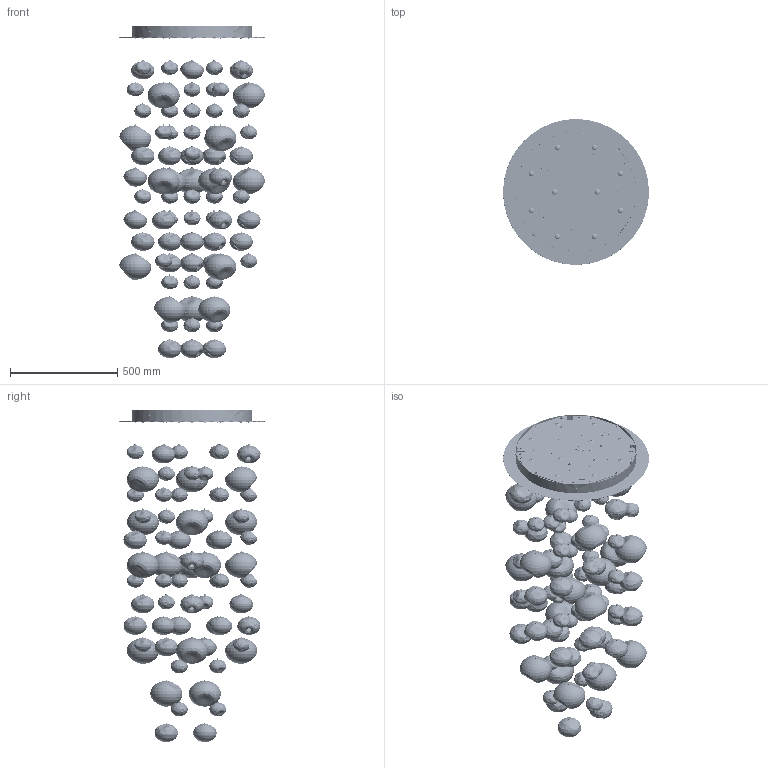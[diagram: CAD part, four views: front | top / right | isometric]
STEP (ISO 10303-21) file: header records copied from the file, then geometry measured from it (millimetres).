
FILE_DESCRIPTION(/* description */ (''),/* implementation_level */ '2;1');
FILE_NAME(/* name */ 'ETHER ROUND Ø68 150',/* time_stamp */ '2025-09-04T16:06:47+02:00',/* author */ (''),/* organization */ (''),/* preprocessor_version */ 'ST-DEVELOPER v16.5',/* originating_system */ 'Rhino 7.38',/* authorisation */ '');
FILE_SCHEMA (('CONFIG_CONTROL_DESIGN'));
Products named in the file (53): Document; 146C021-B; 146C016-F; 146C014; 146C013; SEEGER N.4 ZINCATO minetti; 146C011; 146C021-A; 146C016-E; 146C015; 146C021-C; 146C016-G; 146C021-F; 146C016-H; 146C021-E; 146C021-D; 146C002; 146C010-G-927; Z0022; C026-927; C005; C008; B005; Vite TSP CR M3x8 zincata; VITE TC AUTOFIL M2,9X9,5 ZN UNI6954AB DIN7981C; K001; R001-36; 146C005; RONDELLA Ø7 H2 F.Ø3.2 STEAB 5021-2-118; VITE AUTOFIL. Ø2.9X6.5 TCC UNI 6954 AB; VITE TCEI M3X25 UNI5931 ZB; E007-0,5A; W037; Z017-P; W042; W044; Z0009; 146C006; X0072; 146C010-F-927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
Assembly tree (274 placements, depth 3):
  Document
    146C021-B  x3
      146C016-F
      146C014
      146C013
      SEEGER N.4 ZINCATO minetti
      146C011
    146C021-A  x3
      146C016-E
      146C015
      146C013
      146C014
      SEEGER N.4 ZINCATO minetti
      146C011
    146C021-C  x3
      146C016-G
      146C014
      146C015
      146C013
      SEEGER N.4 ZINCATO minetti
      146C011
    146C021-F  x3
      146C016-H
      146C014
      146C013
      SEEGER N.4 ZINCATO minetti
      146C011
    146C021-E  x3
      146C016-G
      146C015
      146C014
      146C013
      SEEGER N.4 ZINCATO minetti
      146C011
    146C021-D  x3
      146C016-H
      146C014
      146C013
      146C011
      SEEGER N.4 ZINCATO minetti
    146C002
    146C010-G-927  x4
      Z0022
      C026-927
      C005
      C008
      B005
      Vite TSP CR M3x8 zincata
      VITE TC AUTOFIL M2,9X9,5 ZN UNI6954AB DIN7981C
      K001
      R001-36
      146C005
      RONDELLA Ø7 H2 F.Ø3.2 STEAB 5021-2-118
      VITE AUTOFIL. Ø2.9X6.5 TCC UNI 6954 AB
      VITE TCEI M3X25 UNI5931 ZB
      E007-0,5A
      W037
      Z017-P
      W042
      W044
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Bounding box: 679.88 x 679.97 x 1549.12 mm (x, y, z)
Volume: 5234377.2 mm3; surface area: 7562824.9 mm2
Topology: 560 solids, 593 shells, 20635 faces, 54303 edges, 35728 vertices
Faces by surface type: plane 9938, cylinder 6281, bspline 4416
Full cylindrical faces by diameter (mm): 0.65 x5, 0.88 x10, 1 x102, 1.15 x20, 1.25 x4, 1.5 x25, 2 x36, 2.25 x10, 2.3 x20, 2.459 x20, 2.75 x1, 2.8 x10, 2.9 x35, 3 x138, 3.1 x10, 3.2 x15, 3.242 x12, 3.3 x28, 3.5 x18, 4 x40, 4.3 x12, 4.9 x5, 5 x4, 5.5 x25, 5.6 x10, 5.8 x5, 6 x33, 6.5 x46, 6.6 x10, 7 x35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
Entity records: 398049 total; most frequent: CARTESIAN_POINT 327275, ORIENTED_EDGE 18325, EDGE_CURVE 9164, VERTEX_POINT 6022, B_SPLINE_CURVE_WITH_KNOTS 5660, EDGE_LOOP 3892, ADVANCED_FACE 3410, FACE_OUTER_BOUND 3410
